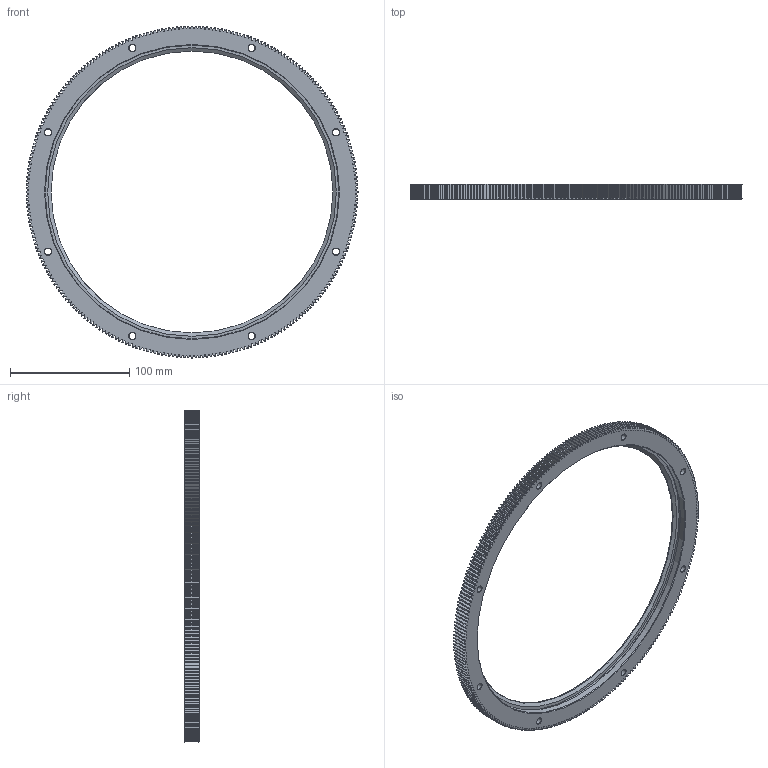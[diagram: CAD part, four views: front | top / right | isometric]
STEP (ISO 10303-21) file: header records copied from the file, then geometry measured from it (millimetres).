
FILE_DESCRIPTION( ( 'STEP AP203' ), '1' );
FILE_NAME( 'p:/temp/worker_66/temp/exporttempdir_4076_66_TF1Zu/format_0/RIS 278 R360 P.stp', '2021-09-01T01:44:02', ( 'License CC BY-ND 4.0' ), ( 'CADENAS' ), ' ', 'PARTsolutions', ' ' );
FILE_SCHEMA( ( 'CONFIG_CONTROL_DESIGN' ) );
Length unit declared in the file: millimetre
Products named in the file (1): _RIS 278 R360 P
Bounding box: 278 x 12.25 x 278 mm (x, y, z)
Volume: 157228.6 mm3; surface area: 62971.2 mm2
Topology: 1 solids, 1 shells, 1698 faces, 5047 edges, 3361 vertices
Faces by surface type: plane 1116, cylinder 294, cone 287, torus 1
Full cylindrical faces by diameter (mm): 5.5 x8, 10 x8, 246 x1, 247.2 x1
Entity records: 57022 total; most frequent: CARTESIAN_POINT 11733, ORIENTED_EDGE 10034, DIRECTION 8740, EDGE_CURVE 5017, LINE 3588, VECTOR 3588, VERTEX_POINT 3361, AXIS2_PLACEMENT_3D 2576
